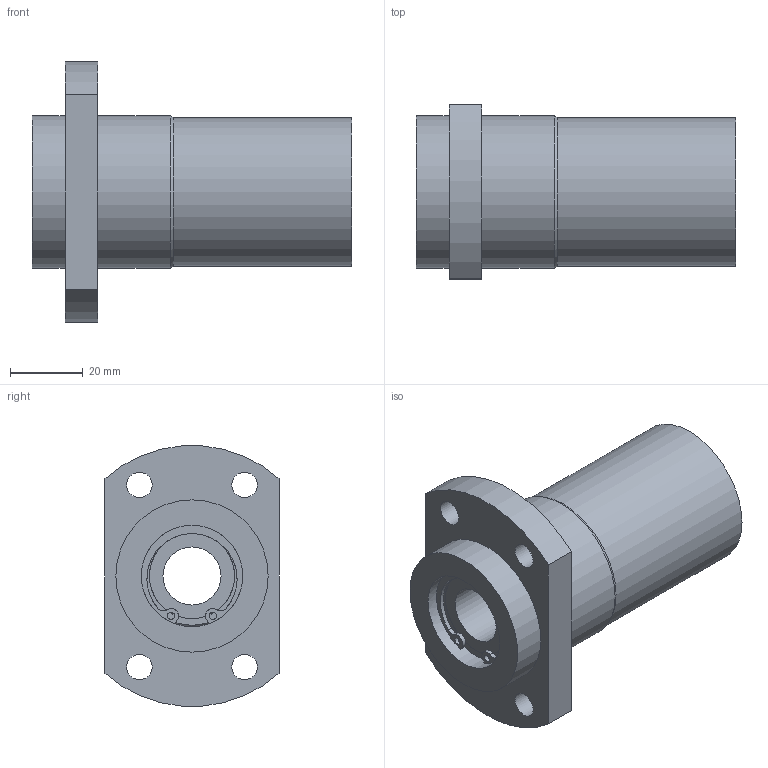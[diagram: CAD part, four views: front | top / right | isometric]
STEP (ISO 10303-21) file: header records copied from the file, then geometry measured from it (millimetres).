
FILE_DESCRIPTION((''),'2;1');
FILE_NAME('C:\Documents and Settings\土屋\My Documents\土屋移動用フォルダ\製品 (図面)\カタログ用3D\変換ファイル\OZAK_3D-CAD(STEP形式)\Part1.-Linear Bearings_ﾘﾆｱﾍﾞｱﾘﾝｸﾞ\09_Maintenance Free_ﾒｲﾝﾃﾅﾝｽﾌﾘｰ\L2017-09-22T13:29:47','2017-09-22T13:29:47',('y'),(''),'Autodesk Inventor 11','Autodesk Inventor 11','');
FILE_SCHEMA(('AUTOMOTIVE_DESIGN { 1 0 10303 214 1 1 1 1 }'));
Length unit declared in the file: millimetre
Products named in the file (1): LFWB16MF
Bounding box: 88 x 48 x 71.76 mm (x, y, z)
Volume: 112077.2 mm3; surface area: 24570.9 mm2
Topology: 1 solids, 3 shells, 71 faces, 183 edges, 114 vertices
Faces by surface type: plane 29, cylinder 25, bspline 14, torus 2, cone 1
Full cylindrical faces by diameter (mm): 2 x2, 7 x4, 16 x1, 23.5 x2, 26.6 x2, 28 x4, 41 x1, 42 x2
Entity records: 2084 total; most frequent: CARTESIAN_POINT 452, DIRECTION 364, ORIENTED_EDGE 284, AXIS2_PLACEMENT_3D 164, EDGE_CURVE 142, EDGE_LOOP 118, CIRCLE 106, VERTEX_POINT 98
